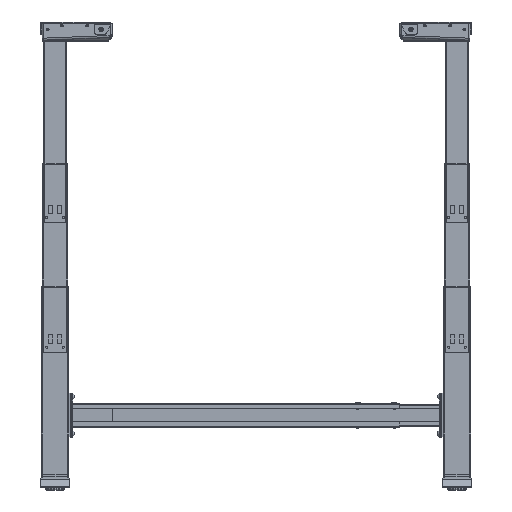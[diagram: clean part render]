
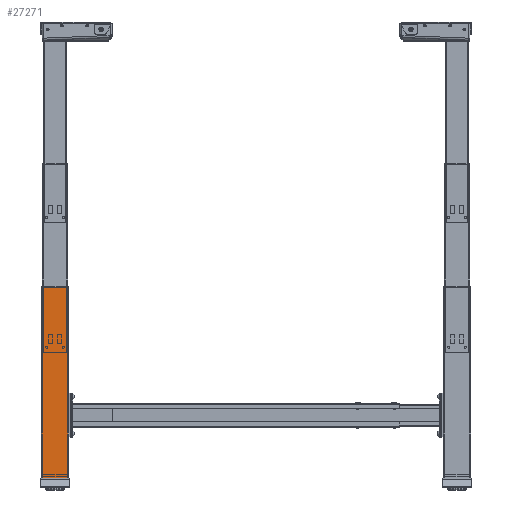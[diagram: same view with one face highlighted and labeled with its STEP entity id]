
A CAD part, front view. The second image highlights one B-rep face of the part: STEP entity #27271.
In plain terms, the highlighted planar face has unit normal (0, -1, 0) as drawn and (0, 1, 0) by its records, which use the part's own axes.
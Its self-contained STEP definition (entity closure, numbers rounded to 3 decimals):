
#1465=PLANE('',#32721);
#3933=ORIENTED_EDGE('',*,*,#11835,.T.);
#3934=ORIENTED_EDGE('',*,*,#11842,.F.);
#3935=ORIENTED_EDGE('',*,*,#11843,.F.);
#3936=ORIENTED_EDGE('',*,*,#11844,.F.);
#11835=EDGE_CURVE('',#15827,#15825,#18496,.T.);
#11842=EDGE_CURVE('',#15833,#15825,#18500,.T.);
#11843=EDGE_CURVE('',#15834,#15833,#18501,.T.);
#11844=EDGE_CURVE('',#15827,#15834,#18502,.T.);
#15825=VERTEX_POINT('',#43622);
#15827=VERTEX_POINT('',#43625);
#15833=VERTEX_POINT('',#43639);
#15834=VERTEX_POINT('',#43641);
#18496=LINE('',#43624,#20817);
#18500=LINE('',#43638,#20821);
#18501=LINE('',#43640,#20822);
#18502=LINE('',#43642,#20823);
#20817=VECTOR('',#35924,1000.);
#20821=VECTOR('',#35936,1000.);
#20822=VECTOR('',#35937,1000.);
#20823=VECTOR('',#35938,1000.);
#23110=EDGE_LOOP('',(#3933,#3934,#3935,#3936));
#24941=FACE_BOUND('',#23110,.T.);
#27271=ADVANCED_FACE('',(#24941),#1465,.T.);
#32721=AXIS2_PLACEMENT_3D('',#43637,#35934,#35935);
#35924=DIRECTION('',(1.,0.,0.));
#35934=DIRECTION('',(0.,1.,0.));
#35935=DIRECTION('',(-1.,0.,0.));
#35936=DIRECTION('',(0.,0.,1.));
#35937=DIRECTION('',(1.,0.,0.));
#35938=DIRECTION('',(0.,0.,-1.));
#43622=CARTESIAN_POINT('',(104.893,475.9,579.9));
#43624=CARTESIAN_POINT('',(35.893,475.9,579.9));
#43625=CARTESIAN_POINT('',(35.893,475.9,579.9));
#43637=CARTESIAN_POINT('',(70.393,475.9,320.9));
#43638=CARTESIAN_POINT('',(104.893,475.9,61.9));
#43639=CARTESIAN_POINT('',(104.893,475.9,61.9));
#43640=CARTESIAN_POINT('',(35.893,475.9,61.9));
#43641=CARTESIAN_POINT('',(35.893,475.9,61.9));
#43642=CARTESIAN_POINT('',(35.893,475.9,579.9));
